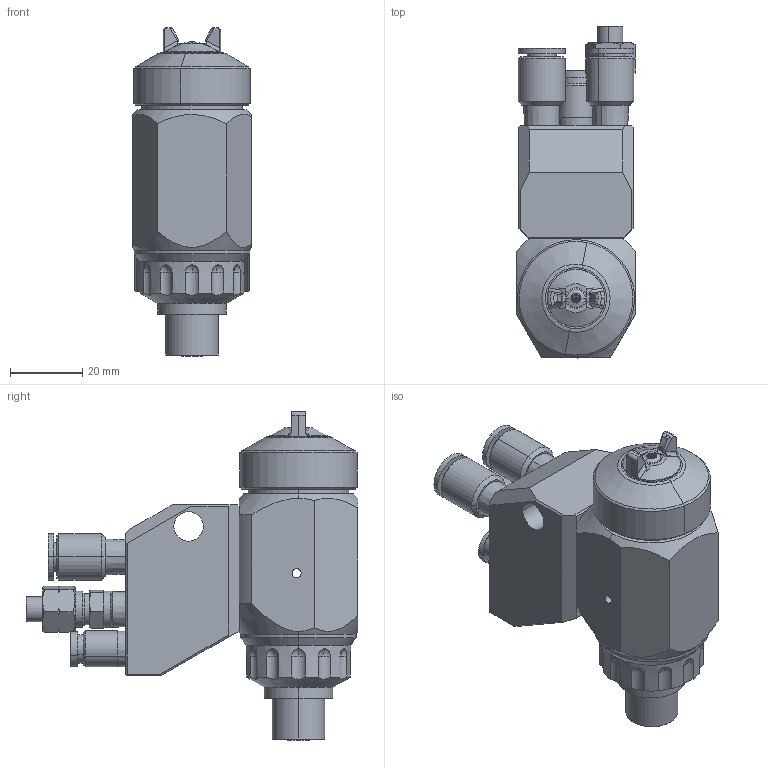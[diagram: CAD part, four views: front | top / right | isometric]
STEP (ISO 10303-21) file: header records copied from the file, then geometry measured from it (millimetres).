
FILE_DESCRIPTION (( 'STEP AP203' ), '1' );
FILE_NAME ('PGB1RA(1854).STEP', '2023-01-19T01:55:02', ( '' ), ( '' ), 'SwSTEP 2.0', 'SolidWorks 2021', '' );
FILE_SCHEMA (( 'CONFIG_CONTROL_DESIGN' ));
Length unit declared in the file: millimetre
Products named in the file (1): PGB1RA(1854)
Bounding box: 33 x 92.09 x 91.21 mm (x, y, z)
Surface area: 24638.5 mm2 (no closed solid volume)
Topology: 0 solids, 21 shells, 338 faces, 988 edges, 654 vertices
Faces by surface type: plane 120, cone 93, cylinder 80, sphere 24, torus 17, bspline 4
Entity records: 12383 total; most frequent: CARTESIAN_POINT 3442, DIRECTION 1897, ORIENTED_EDGE 1731, EDGE_CURVE 988, AXIS2_PLACEMENT_3D 757, VERTEX_POINT 654, CIRCLE 422, EDGE_LOOP 394
